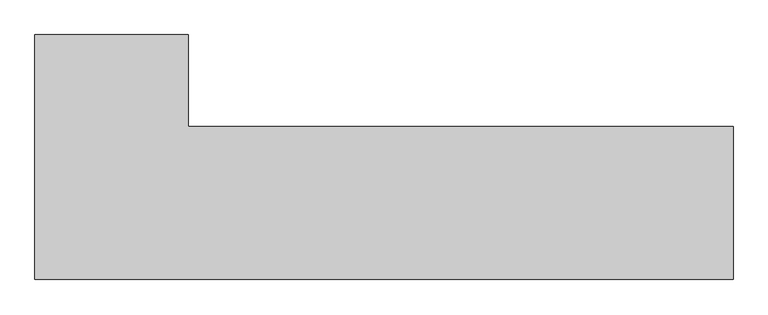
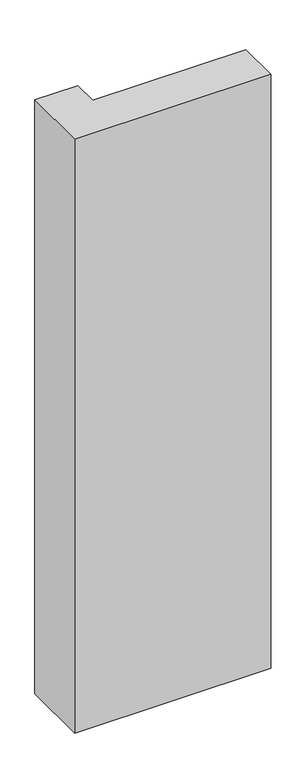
"""IFC4 building model written with IfcOpenShell, lengths in millimetres: column geometry, Columna Estructural Ele : ECO_Ele 40x114x25."""

from ifc_helpers import new_model, si_unit, frame, origin, place, context, project, spatial, polyline, outline, extrude, source, transform, mapped, element, save


def column_ac66dc5b(model_context):
    return source(origin(), model_context, "Body", "SweptSolid", [
        extrude(outline(polyline([(125.0, 275.0), (125.0, 125.0), (1015.0, 125.0), (1015.0, -125.0), (-125.0, -125.0), (-125.0, 275.0), (125.0, 275.0)])), frame((0.0, 0.0, -900.0), z_axis=(0.0, 0.0, 1.0), x_axis=(1.0, 0.0, 0.0)), (0.0, 0.0, 1.0), 3650.0),
    ])


if __name__ == "__main__":
    model = new_model("IFC4")
    model_context = context("Model", 3, world=origin())
    ifc_project = project(units=[si_unit("LENGTHUNIT", "METRE", prefix="MILLI")], contexts=[model_context])
    site = spatial("IfcSite", under=ifc_project)
    building = spatial("IfcBuilding", under=site)
    placement = place(None, origin())
    column_shape = column_ac66dc5b(model_context)
    element("IfcColumn", 1, ObjectType="Columna Estructural Ele : ECO_Ele 40x114x25", at=placement, inside=building, context=model_context, shape_type="MappedRepresentation", body=[
        mapped(column_shape, transform((0.0, 0.0, 0.0), x_axis=(1.0, 0.0, 0.0), y_axis=(0.0, 1.0, 0.0), z_axis=(0.0, 0.0, 1.0))),
    ])
    save(model, "model.ifc")
